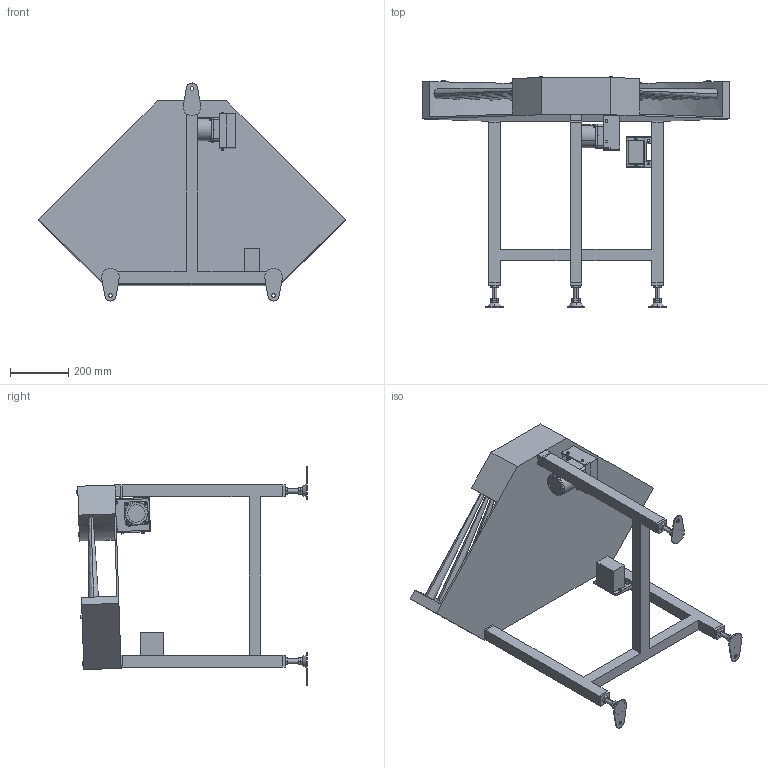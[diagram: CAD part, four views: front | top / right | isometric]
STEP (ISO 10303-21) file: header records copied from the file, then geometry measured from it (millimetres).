
FILE_DESCRIPTION( (''), '2;1');
FILE_NAME ('GT10H-303-400-L-K-75.stp','2025-02-17T15:48:08',(''),(''),'spGate 20.6.2 (****-****-****-****)','','');
FILE_SCHEMA (('AUTOMOTIVE_DESIGN'));
Length unit declared in the file: millimetre
Products named in the file (44): NewModel; TEMP_X_T-prt0; TEMP_X_T-prt1; TEMP_X_T-prt2; TEMP_X_T-prt3; TEMP_X_T-prt4; TEMP_X_T-prt5; TEMP_X_T-prt6; TEMP_X_T-prt7; TEMP_X_T-prt8; TEMP_X_T-prt9; TEMP_X_T-prt10; TEMP_X_T-prt11; TEMP_X_T-prt12; TEMP_X_T-prt13; TEMP_X_T-prt14; TEMP_X_T-prt15; TEMP_X_T-prt16; TEMP_X_T-prt17; TEMP_X_T-prt18; TEMP_X_T-prt19; TEMP_X_T-prt20; TEMP_X_T-prt21; TEMP_X_T-prt22; TEMP_X_T-prt23; TEMP_X_T-prt24; TEMP_X_T-prt25; TEMP_X_T-prt26; TEMP_X_T-prt27; TEMP_X_T-prt28; TEMP_X_T-prt29; TEMP_X_T-prt30; TEMP_X_T-prt31; TEMP_X_T-prt32; TEMP_X_T-prt33; TEMP_X_T-prt34; TEMP_X_T-prt35; TEMP_X_T-prt36; TEMP_X_T-prt37; TEMP_X_T-prt38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
Assembly tree (43 placements, depth 2):
  NewModel
    TEMP_X_T-prt0
    TEMP_X_T-prt1
    TEMP_X_T-prt2
    TEMP_X_T-prt3
    TEMP_X_T-prt4
    TEMP_X_T-prt5
    TEMP_X_T-prt6
    TEMP_X_T-prt7
    TEMP_X_T-prt8
    TEMP_X_T-prt9
    TEMP_X_T-prt10
    TEMP_X_T-prt11
    TEMP_X_T-prt12
    TEMP_X_T-prt13
    TEMP_X_T-prt14
    TEMP_X_T-prt15
    TEMP_X_T-prt16
    TEMP_X_T-prt17
    TEMP_X_T-prt18
    TEMP_X_T-prt19
    TEMP_X_T-prt20
    TEMP_X_T-prt21
    TEMP_X_T-prt22
    TEMP_X_T-prt23
    TEMP_X_T-prt24
    TEMP_X_T-prt25
    TEMP_X_T-prt26
    TEMP_X_T-prt27
    TEMP_X_T-prt28
    TEMP_X_T-prt29
    TEMP_X_T-prt30
    TEMP_X_T-prt31
    TEMP_X_T-prt32
    TEMP_X_T-prt33
    TEMP_X_T-prt34
    TEMP_X_T-prt35
    TEMP_X_T-prt36
    TEMP_X_T-prt37
    TEMP_X_T-prt38
    TEMP_X_T-prt39
    TEMP_X_T-prt40
    TEMP_X_T-prt41
    TEMP_X_T-prt42
Bounding box: 1053.59 x 792.11 x 749 mm (x, y, z)
Volume: 27370485.4 mm3; surface area: 2500542.5 mm2
Topology: 43 solids, 43 shells, 1050 faces, 2460 edges, 1548 vertices
Faces by surface type: plane 597, cylinder 252, bspline 201
Entity records: 55398 total; most frequent: CARTESIAN_POINT 11226, ORIENTED_EDGE 4880, DIRECTION 4516, COLOUR_RGB 3533, PRESENTATION_STYLE_ASSIGNMENT 3533, STYLED_ITEM 3533, EDGE_CURVE 2440, DRAUGHTING_PRE_DEFINED_CURVE_FONT 2440
